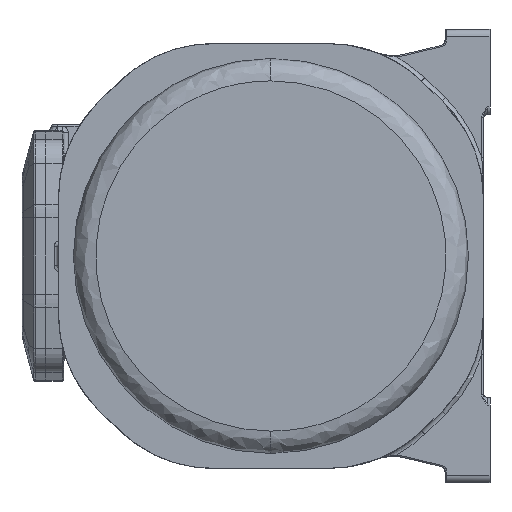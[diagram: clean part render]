
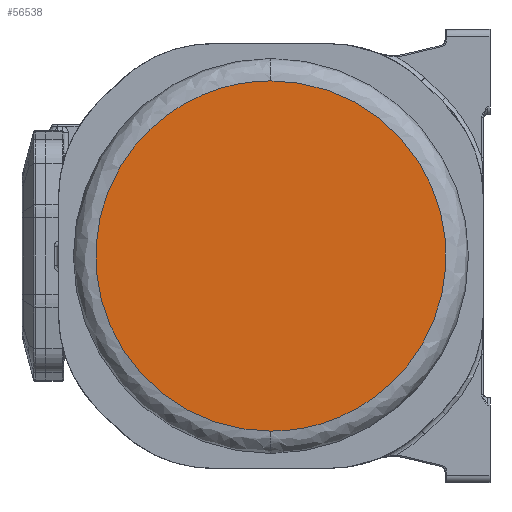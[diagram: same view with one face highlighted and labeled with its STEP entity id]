
A CAD part, left-side view. The second image highlights one B-rep face of the part: STEP entity #56538.
In plain terms, the highlighted planar face has unit normal (-1, 0, 0).
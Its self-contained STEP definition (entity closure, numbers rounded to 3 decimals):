
#5188 = DIRECTION ( 'NONE',  ( 1., 0., 0. ) ) ;
#10180 = CARTESIAN_POINT ( 'NONE',  ( -258., 235., -117.5 ) ) ;
#16590 = CARTESIAN_POINT ( 'NONE',  ( -258., -235., 117.5 ) ) ;
#23502 =( BOUNDED_CURVE ( )  B_SPLINE_CURVE ( 3, ( #108166, #10180, #28154, #90969 ),
 .UNSPECIFIED., .F., .F. ) 
 B_SPLINE_CURVE_WITH_KNOTS ( ( 4, 4 ),
 ( 0., 1. ),
 .UNSPECIFIED. ) 
 CURVE ( )  GEOMETRIC_REPRESENTATION_ITEM ( )  RATIONAL_B_SPLINE_CURVE ( ( 0.957, 0.319, 0.319, 0.957 ) ) 
 REPRESENTATION_ITEM ( '' )  );
#25183 = ORIENTED_EDGE ( 'NONE', *, *, #86883, .F. ) ;
#28154 = CARTESIAN_POINT ( 'NONE',  ( -258., 235., 117.5 ) ) ;
#29836 = PLANE ( 'NONE',  #61162 ) ;
#37490 = EDGE_LOOP ( 'NONE', ( #75500, #25183 ) ) ;
#43610 = CARTESIAN_POINT ( 'NONE',  ( -258., 0., -117.5 ) ) ;
#43840 = VERTEX_POINT ( 'NONE', #55001 ) ;
#47860 = CARTESIAN_POINT ( 'NONE',  ( -258., 0., 117.5 ) ) ;
#55001 = CARTESIAN_POINT ( 'NONE',  ( -258., 0., -117.5 ) ) ;
#56538 = ADVANCED_FACE ( 'NONE', ( #69812 ), #29836, .F. ) ;
#57385 = VERTEX_POINT ( 'NONE', #47860 ) ;
#58849 = CARTESIAN_POINT ( 'NONE',  ( -258., -118.91, 118.91 ) ) ;
#59187 =( BOUNDED_CURVE ( )  B_SPLINE_CURVE ( 3, ( #79343, #16590, #97346, #43610 ),
 .UNSPECIFIED., .F., .F. ) 
 B_SPLINE_CURVE_WITH_KNOTS ( ( 4, 4 ),
 ( 0., 1. ),
 .UNSPECIFIED. ) 
 CURVE ( )  GEOMETRIC_REPRESENTATION_ITEM ( )  RATIONAL_B_SPLINE_CURVE ( ( 0.957, 0.319, 0.319, 0.957 ) ) 
 REPRESENTATION_ITEM ( '' )  );
#61162 = AXIS2_PLACEMENT_3D ( 'NONE', #58849, #5188, #67865 ) ;
#67865 = DIRECTION ( 'NONE',  ( 0., 0., -1. ) ) ;
#69812 = FACE_OUTER_BOUND ( 'NONE', #37490, .T. ) ;
#71579 = EDGE_CURVE ( 'NONE', #57385, #43840, #59187, .T. ) ;
#75500 = ORIENTED_EDGE ( 'NONE', *, *, #71579, .F. ) ;
#79343 = CARTESIAN_POINT ( 'NONE',  ( -258., 0., 117.5 ) ) ;
#86883 = EDGE_CURVE ( 'NONE', #43840, #57385, #23502, .T. ) ;
#90969 = CARTESIAN_POINT ( 'NONE',  ( -258., 0., 117.5 ) ) ;
#97346 = CARTESIAN_POINT ( 'NONE',  ( -258., -235., -117.5 ) ) ;
#108166 = CARTESIAN_POINT ( 'NONE',  ( -258., 0., -117.5 ) ) ;
